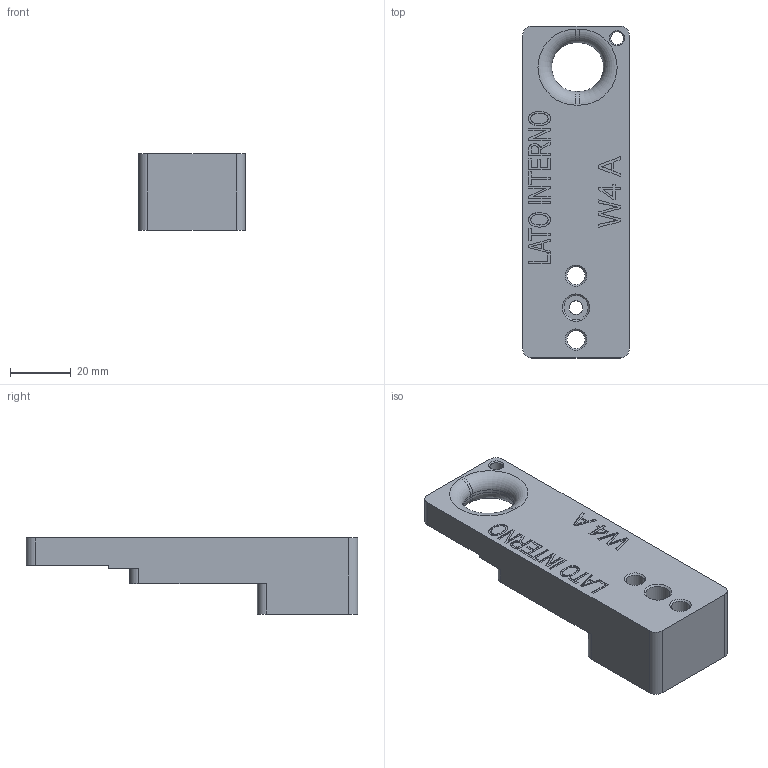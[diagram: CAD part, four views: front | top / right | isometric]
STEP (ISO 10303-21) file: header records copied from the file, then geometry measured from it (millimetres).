
FILE_DESCRIPTION(/* description */ (''),/* implementation_level */ '2;1');
FILE_NAME(/* name */ 'WHEELS-INSERT.12.stp',/* time_stamp */ '2018-09-20T14:47:22+02:00',/* author */ (''),/* organization */ (''),/* preprocessor_version */ 'ST-DEVELOPER v16.7',/* originating_system */ 'SIEMENS PLM Software NX 12.0',/* authorisation */ '');
FILE_SCHEMA (('AUTOMOTIVE_DESIGN { 1 0 10303 214 3 1 1 1 }'));
Length unit declared in the file: millimetre
Products named in the file (1): bez9B988210ctds
Bounding box: 35 x 109 x 25 mm (x, y, z)
Volume: 57191.5 mm3; surface area: 14023.3 mm2
Topology: 1 solids, 1 shells, 194 faces, 501 edges, 330 vertices
Faces by surface type: plane 138, extrusion 25, cylinder 19, cone 8, torus 4
Full cylindrical faces by diameter (mm): 4.2 x1, 4.5 x1, 6 x2, 8 x1
Entity records: 6437 total; most frequent: CARTESIAN_POINT 2184, ORIENTED_EDGE 968, DIRECTION 643, EDGE_CURVE 484, VERTEX_POINT 326, B_SPLINE_CURVE_WITH_KNOTS 281, EDGE_LOOP 238, AXIS2_PLACEMENT_3D 220
